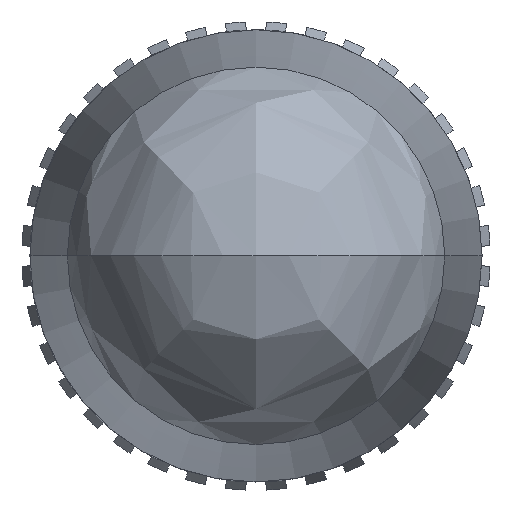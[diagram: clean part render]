
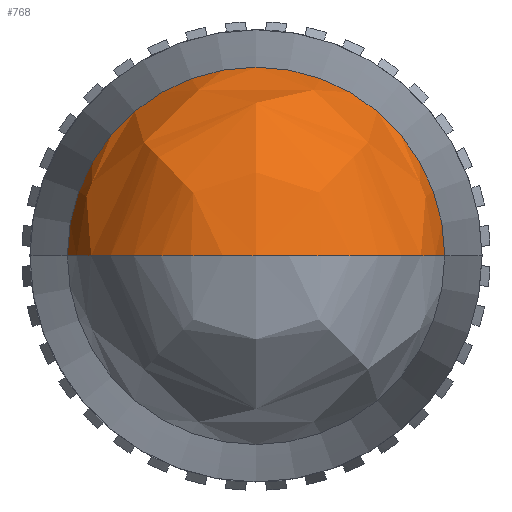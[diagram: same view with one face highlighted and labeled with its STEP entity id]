
A CAD part, left-side view. The second image highlights one B-rep face of the part: STEP entity #768.
In plain terms, the highlighted free-form (B-spline) face has degree [3, 3] with [7, 4] control points.
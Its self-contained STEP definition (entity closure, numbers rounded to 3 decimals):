
#131=CARTESIAN_POINT('',(122.459,76.889,0.));
#132=DIRECTION('',(0.,0.,1.));
#133=DIRECTION('',(-0.198,0.98,0.));
#134=AXIS2_PLACEMENT_3D('',#131,#132,#133);
#136=CARTESIAN_POINT('',(122.459,77.236,0.));
#137=DIRECTION('',(0.,0.,-1.));
#138=DIRECTION('',(-0.198,-0.98,0.));
#139=AXIS2_PLACEMENT_3D('',#136,#137,#138);
#146=CARTESIAN_POINT('',(121.635,77.062,0.));
#147=DIRECTION('',(1.,0.,0.));
#148=DIRECTION('',(0.,1.,0.));
#149=AXIS2_PLACEMENT_3D('',#146,#147,#148);
#463=CARTESIAN_POINT('',(121.635,80.965,0.));
#465=VERTEX_POINT('',#463);
#466=CARTESIAN_POINT('',(118.304,77.062,0.));
#467=VERTEX_POINT('',#466);
#483=CARTESIAN_POINT('',(121.635,73.16,0.));
#485=VERTEX_POINT('',#483);
#734=CARTESIAN_POINT('',(118.304,77.062,0.));
#735=CARTESIAN_POINT('',(118.391,79.137,-0.131));
#736=CARTESIAN_POINT('',(119.78,80.683,-0.228));
#737=CARTESIAN_POINT('',(121.837,80.993,-0.247));
#738=CARTESIAN_POINT('',(118.304,77.062,0.));
#739=CARTESIAN_POINT('',(118.391,79.217,1.146));
#740=CARTESIAN_POINT('',(119.78,80.823,2.));
#741=CARTESIAN_POINT('',(121.837,81.145,2.172));
#742=CARTESIAN_POINT('',(118.304,77.062,0.));
#743=CARTESIAN_POINT('',(118.391,78.342,2.079));
#744=CARTESIAN_POINT('',(119.78,79.295,3.627));
#745=CARTESIAN_POINT('',(121.837,79.486,3.938));
#746=CARTESIAN_POINT('',(118.304,77.062,0.));
#747=CARTESIAN_POINT('',(118.391,77.062,2.079));
#748=CARTESIAN_POINT('',(119.78,77.062,3.627));
#749=CARTESIAN_POINT('',(121.837,77.062,3.938));
#750=CARTESIAN_POINT('',(118.304,77.062,0.));
#751=CARTESIAN_POINT('',(118.391,75.783,2.079));
#752=CARTESIAN_POINT('',(119.78,74.83,3.627));
#753=CARTESIAN_POINT('',(121.837,74.639,3.938));
#754=CARTESIAN_POINT('',(118.304,77.062,0.));
#755=CARTESIAN_POINT('',(118.391,74.908,1.146));
#756=CARTESIAN_POINT('',(119.78,73.302,2.));
#757=CARTESIAN_POINT('',(121.837,72.98,2.172));
#758=CARTESIAN_POINT('',(118.304,77.062,0.));
#759=CARTESIAN_POINT('',(118.391,74.988,-0.131));
#760=CARTESIAN_POINT('',(119.78,73.442,-0.228));
#761=CARTESIAN_POINT('',(121.837,73.132,-0.247));
#762=(BOUNDED_SURFACE()B_SPLINE_SURFACE(3,3,((#734,#735,#736,#737),(#738,#739,
#740,#741),(#742,#743,#744,#745),(#746,#747,#748,#749),(#750,#751,#752,#753),(
#754,#755,#756,#757),(#758,#759,#760,#761)),.UNSPECIFIED.,.F.,.F.,.F.)B_SPLINE_SURFACE_WITH_KNOTS((4,3,4),(4,4),(0.,1.,2.),(0.,1.),.UNSPECIFIED.)GEOMETRIC_REPRESENTATION_ITEM()RATIONAL_B_SPLINE_SURFACE(((1.34,
1.136,1.136,1.34),(1.058,
0.897,0.897,1.058),(1.058,
0.897,0.897,1.058),(1.34,
1.136,1.136,1.34),(1.058,
0.897,0.897,1.058),(1.058,
0.897,0.897,1.058),(1.34,
1.136,1.136,1.34)))REPRESENTATION_ITEM('')SURFACE());
#763=ORIENTED_EDGE('',*,*,#726,.F.);
#764=ORIENTED_EDGE('',*,*,#679,.T.);
#765=ORIENTED_EDGE('',*,*,#728,.T.);
#766=EDGE_LOOP('',(#763,#764,#765));
#767=FACE_OUTER_BOUND('',#766,.F.);
#768=ADVANCED_FACE('',(#767),#762,.T.);
#135=CIRCLE('',#134,4.158);
#140=CIRCLE('',#139,4.158);
#150=CIRCLE('',#149,3.902);
#679=EDGE_CURVE('',#465,#485,#150,.T.);
#726=EDGE_CURVE('',#465,#467,#135,.T.);
#728=EDGE_CURVE('',#485,#467,#140,.T.);
